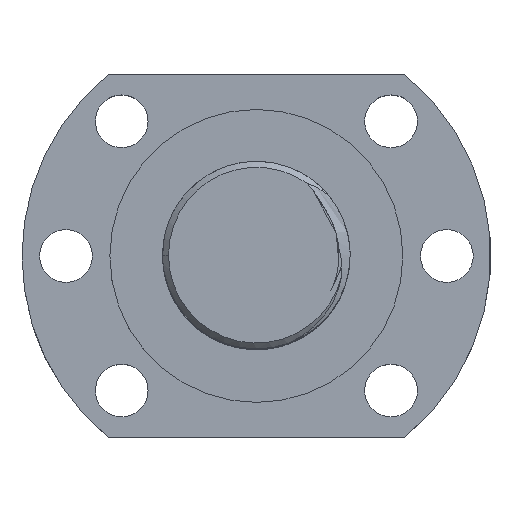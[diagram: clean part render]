
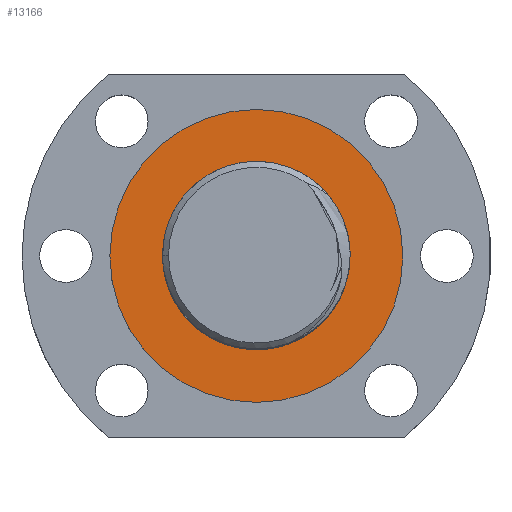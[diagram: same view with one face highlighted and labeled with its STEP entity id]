
A CAD part, top view. The second image highlights one B-rep face of the part: STEP entity #13166.
In plain terms, the highlighted planar face has unit normal (0, 0, 1) as drawn and (0, -1, 0) by its records, which use the part's own axes.
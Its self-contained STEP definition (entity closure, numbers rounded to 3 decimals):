
#670 = CARTESIAN_POINT ( 'NONE',  ( 0., -26., -25. ) ) ;
#1150 = DIRECTION ( 'NONE',  ( 0., -1., 0. ) ) ;
#2394 = EDGE_CURVE ( 'NONE', #12805, #5639, #11194, .T. ) ;
#3949 = CARTESIAN_POINT ( 'NONE',  ( 0., -26., 0. ) ) ;
#4035 = EDGE_CURVE ( 'NONE', #8075, #13655, #16669, .T. ) ;
#4154 = FACE_BOUND ( 'NONE', #7801, .T. ) ;
#4430 = EDGE_CURVE ( 'NONE', #13655, #8075, #7377, .T. ) ;
#4567 = DIRECTION ( 'NONE',  ( 0., -1., 0. ) ) ;
#5311 = EDGE_CURVE ( 'NONE', #5639, #12805, #12859, .T. ) ;
#5639 = VERTEX_POINT ( 'NONE', #670 ) ;
#6148 = ORIENTED_EDGE ( 'NONE', *, *, #5311, .F. ) ;
#6179 = CARTESIAN_POINT ( 'NONE',  ( 0., -26., 0. ) ) ;
#6717 = AXIS2_PLACEMENT_3D ( 'NONE', #11595, #11914, #16626 ) ;
#7171 = DIRECTION ( 'NONE',  ( 1., 0., 0. ) ) ;
#7377 = CIRCLE ( 'NONE', #15588, 16. ) ;
#7801 = EDGE_LOOP ( 'NONE', ( #10414, #11945 ) ) ;
#8075 = VERTEX_POINT ( 'NONE', #14374 ) ;
#8729 = ORIENTED_EDGE ( 'NONE', *, *, #2394, .F. ) ;
#8954 = DIRECTION ( 'NONE',  ( 1., 0., 0. ) ) ;
#9138 = AXIS2_PLACEMENT_3D ( 'NONE', #15816, #1150, #15603 ) ;
#9933 = CARTESIAN_POINT ( 'NONE',  ( 0., -26., 16. ) ) ;
#10414 = ORIENTED_EDGE ( 'NONE', *, *, #4035, .F. ) ;
#11194 = CIRCLE ( 'NONE', #13247, 25. ) ;
#11595 = CARTESIAN_POINT ( 'NONE',  ( 0., -26., 0. ) ) ;
#11914 = DIRECTION ( 'NONE',  ( 0., 1., 0. ) ) ;
#11945 = ORIENTED_EDGE ( 'NONE', *, *, #4430, .F. ) ;
#12200 = AXIS2_PLACEMENT_3D ( 'NONE', #3949, #13913, #7171 ) ;
#12511 = PLANE ( 'NONE',  #12200 ) ;
#12805 = VERTEX_POINT ( 'NONE', #19588 ) ;
#12859 = CIRCLE ( 'NONE', #6717, 25. ) ;
#12864 = DIRECTION ( 'NONE',  ( 0., 1., 0. ) ) ;
#13166 = ADVANCED_FACE ( 'NONE', ( #18622, #4154 ), #12511, .F. ) ;
#13247 = AXIS2_PLACEMENT_3D ( 'NONE', #21002, #12864, #8954 ) ;
#13655 = VERTEX_POINT ( 'NONE', #9933 ) ;
#13913 = DIRECTION ( 'NONE',  ( 0., 1., 0. ) ) ;
#14374 = CARTESIAN_POINT ( 'NONE',  ( 0., -26., -16. ) ) ;
#15588 = AXIS2_PLACEMENT_3D ( 'NONE', #6179, #4567, #19464 ) ;
#15603 = DIRECTION ( 'NONE',  ( 1., 0., 0. ) ) ;
#15816 = CARTESIAN_POINT ( 'NONE',  ( 0., -26., 0. ) ) ;
#16626 = DIRECTION ( 'NONE',  ( 1., 0., 0. ) ) ;
#16669 = CIRCLE ( 'NONE', #9138, 16. ) ;
#18622 = FACE_OUTER_BOUND ( 'NONE', #19916, .T. ) ;
#19464 = DIRECTION ( 'NONE',  ( 1., 0., 0. ) ) ;
#19588 = CARTESIAN_POINT ( 'NONE',  ( 0., -26., 25. ) ) ;
#19916 = EDGE_LOOP ( 'NONE', ( #6148, #8729 ) ) ;
#21002 = CARTESIAN_POINT ( 'NONE',  ( 0., -26., 0. ) ) ;
